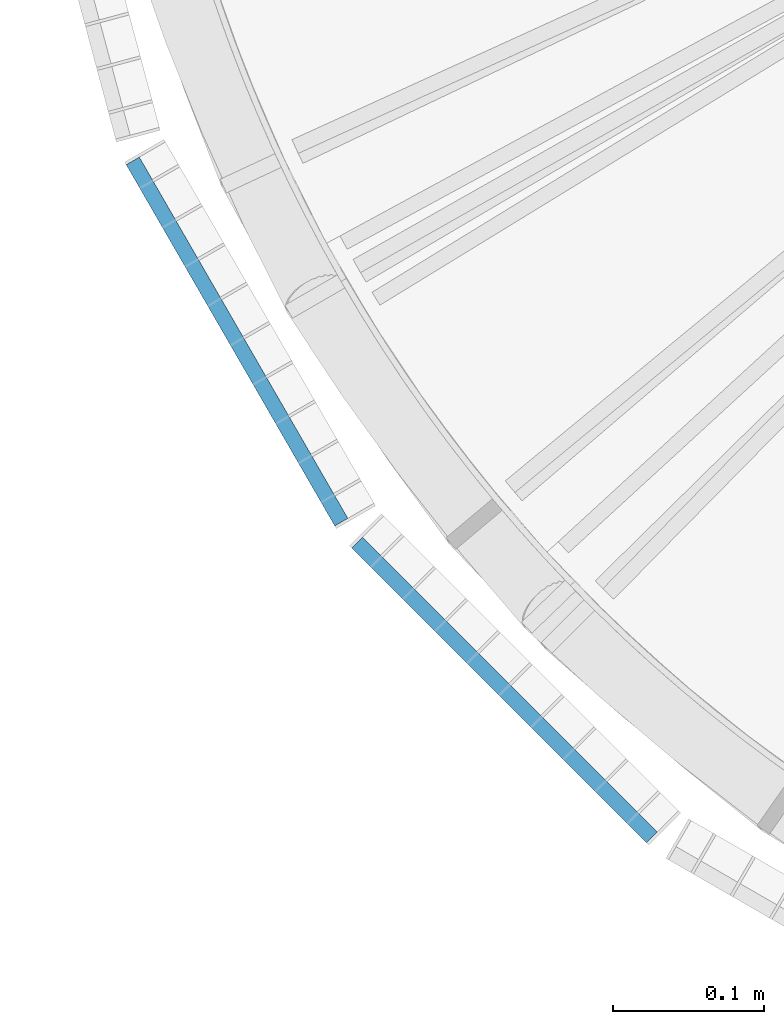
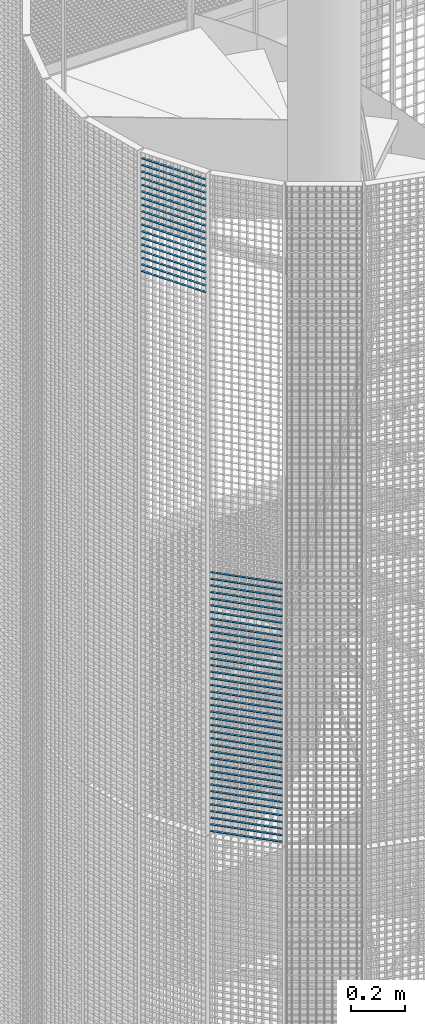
# One storey, part 105 of 1183: 58 beams, 2 elements without a shape of their own.
"""IFC2X3 building model written with IfcOpenShell, lengths in millimetres."""

from ifc_helpers import new_model, si_unit, frame, origin_with_axes, origin_2d_with_axis, place, context, subcontext, project, spatial, rectangle, extrude, material, type_object, element, aggregate, save


model = new_model("IFC2X3")

# Units and contexts
model_context = context("Model", 3, precision=1e-05, world=origin_with_axes())
body_context = subcontext(model_context, "Body", "Model", "MODEL_VIEW")
ifc_project = project(units=[si_unit("LENGTHUNIT", "METRE", prefix="MILLI"), si_unit("AREAUNIT", "SQUARE_METRE"), si_unit("VOLUMEUNIT", "CUBIC_METRE"), si_unit("MASSUNIT", "GRAM", prefix="KILO"), si_unit("TIMEUNIT", "SECOND"), si_unit("PLANEANGLEUNIT", "RADIAN"), si_unit("SOLIDANGLEUNIT", "STERADIAN"), si_unit("THERMODYNAMICTEMPERATUREUNIT", "DEGREE_CELSIUS"), si_unit("LUMINOUSINTENSITYUNIT", "LUMEN")], contexts=[model_context])

# Site, building, storey
site_placement = place(None, origin_with_axes())
site = spatial("IfcSite", under=ifc_project, at=site_placement, Name="Undefined", CompositionType="ELEMENT")
building_placement = place(site_placement, origin_with_axes())
building = spatial("IfcBuilding", under=site, at=building_placement, Name="Undefined", CompositionType="ELEMENT")
storey_placement = place(building_placement, origin_with_axes())
storey = spatial("IfcBuildingStorey", under=building, at=storey_placement, Name="Undefined", CompositionType="ELEMENT", Elevation=0.0)

# Assembly, beams
assembly_1_placement = place(storey_placement, origin_with_axes())
assembly_1 = element("IfcElementAssembly", 1, at=assembly_1_placement, inside=storey, Name="BORDURE", AssemblyPlace="NOTDEFINED", PredefinedType="NOTDEFINED")
ifc_material = material(Name="STEEL/S235JR")
beam_type = type_object("IfcBeamType", Name="PL2*10", PredefinedType="NOTDEFINED")
beam_1_placement = place(assembly_1_placement, frame((-884.927168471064, -689.771348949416, 16200.0), z_axis=(-0.70710678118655, -0.707106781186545, 0.0), x_axis=(0.707106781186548, -0.707106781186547, 0.0)))
beam_1 = element("IfcBeam", 2, at=beam_1_placement, type_object=beam_type, material=ifc_material, Name="ENTRETOISE", context=body_context, shape_type="SweptSolid", body=[
    extrude(rectangle(XDim=2.0, YDim=10.0, at=origin_2d_with_axis()), frame((275.999999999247, 9.09494701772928e-13, 1.53210777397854e-14), z_axis=(-1.0, 0.0, 0.0), x_axis=(0.0, -1.0, 0.0)), (0.0, 0.0, 1.0), 276.0),
])
beam_2_placement = place(assembly_1_placement, frame((-884.927168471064, -689.771348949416, 16170.0), z_axis=(-0.70710678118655, -0.707106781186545, 0.0), x_axis=(0.707106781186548, -0.707106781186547, 0.0)))
beam_2 = element("IfcBeam", 3, at=beam_2_placement, type_object=beam_type, material=ifc_material, Name="ENTRETOISE", context=body_context, shape_type="SweptSolid", body=[
    extrude(rectangle(XDim=2.0, YDim=10.0, at=origin_2d_with_axis()), frame((275.999999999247, 9.09494701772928e-13, 1.53210777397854e-14), z_axis=(-1.0, 0.0, 0.0), x_axis=(0.0, -1.0, 0.0)), (0.0, 0.0, 1.0), 276.0),
])
beam_3_placement = place(assembly_1_placement, frame((-884.927168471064, -689.771348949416, 16140.0), z_axis=(-0.70710678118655, -0.707106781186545, 0.0), x_axis=(0.707106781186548, -0.707106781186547, 0.0)))
beam_3 = element("IfcBeam", 4, at=beam_3_placement, type_object=beam_type, material=ifc_material, Name="ENTRETOISE", context=body_context, shape_type="SweptSolid", body=[
    extrude(rectangle(XDim=2.0, YDim=10.0, at=origin_2d_with_axis()), frame((275.999999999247, 9.09494701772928e-13, 1.53210777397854e-14), z_axis=(-1.0, 0.0, 0.0), x_axis=(0.0, -1.0, 0.0)), (0.0, 0.0, 1.0), 276.0),
])
beam_4_placement = place(assembly_1_placement, frame((-884.927168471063, -689.771348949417, 15720.0), z_axis=(-0.70710678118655, -0.707106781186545, 0.0), x_axis=(0.707106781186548, -0.707106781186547, 0.0)))
beam_4 = element("IfcBeam", 5, at=beam_4_placement, type_object=beam_type, material=ifc_material, Name="ENTRETOISE", context=body_context, shape_type="SweptSolid", body=[
    extrude(rectangle(XDim=2.0, YDim=10.0, at=origin_2d_with_axis()), frame((275.999999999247, 9.09494701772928e-13, 1.53210777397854e-14), z_axis=(-1.0, 0.0, 0.0), x_axis=(0.0, -1.0, 0.0)), (0.0, 0.0, 1.0), 276.0),
])
beam_5_placement = place(assembly_1_placement, frame((-884.927168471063, -689.771348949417, 15690.0), z_axis=(-0.70710678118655, -0.707106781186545, 0.0), x_axis=(0.707106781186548, -0.707106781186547, 0.0)))
beam_5 = element("IfcBeam", 6, at=beam_5_placement, type_object=beam_type, material=ifc_material, Name="ENTRETOISE", context=body_context, shape_type="SweptSolid", body=[
    extrude(rectangle(XDim=2.0, YDim=10.0, at=origin_2d_with_axis()), frame((275.999999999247, 9.09494701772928e-13, 1.53210777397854e-14), z_axis=(-1.0, 0.0, 0.0), x_axis=(0.0, -1.0, 0.0)), (0.0, 0.0, 1.0), 276.0),
])
beam_6_placement = place(assembly_1_placement, frame((-884.927168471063, -689.771348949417, 15750.0), z_axis=(-0.70710678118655, -0.707106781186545, 0.0), x_axis=(0.707106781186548, -0.707106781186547, 0.0)))
beam_6 = element("IfcBeam", 7, at=beam_6_placement, type_object=beam_type, material=ifc_material, Name="ENTRETOISE", context=body_context, shape_type="SweptSolid", body=[
    extrude(rectangle(XDim=2.0, YDim=10.0, at=origin_2d_with_axis()), frame((275.999999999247, 9.09494701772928e-13, 1.53210777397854e-14), z_axis=(-1.0, 0.0, 0.0), x_axis=(0.0, -1.0, 0.0)), (0.0, 0.0, 1.0), 276.0),
])
beam_7_placement = place(assembly_1_placement, frame((-884.927168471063, -689.771348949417, 15660.0), z_axis=(-0.70710678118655, -0.707106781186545, 0.0), x_axis=(0.707106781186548, -0.707106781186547, 0.0)))
beam_7 = element("IfcBeam", 8, at=beam_7_placement, type_object=beam_type, material=ifc_material, Name="ENTRETOISE", context=body_context, shape_type="SweptSolid", body=[
    extrude(rectangle(XDim=2.0, YDim=10.0, at=origin_2d_with_axis()), frame((275.999999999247, 9.09494701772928e-13, 1.53210777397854e-14), z_axis=(-1.0, 0.0, 0.0), x_axis=(0.0, -1.0, 0.0)), (0.0, 0.0, 1.0), 276.0),
])
beam_8_placement = place(assembly_1_placement, frame((-884.927168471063, -689.771348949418, 15630.0), z_axis=(-0.70710678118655, -0.707106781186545, 0.0), x_axis=(0.707106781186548, -0.707106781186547, 0.0)))
beam_8 = element("IfcBeam", 9, at=beam_8_placement, type_object=beam_type, material=ifc_material, Name="ENTRETOISE", context=body_context, shape_type="SweptSolid", body=[
    extrude(rectangle(XDim=2.0, YDim=10.0, at=origin_2d_with_axis()), frame((275.999999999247, 9.09494701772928e-13, 1.53210777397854e-14), z_axis=(-1.0, 0.0, 0.0), x_axis=(0.0, -1.0, 0.0)), (0.0, 0.0, 1.0), 276.0),
])
beam_9_placement = place(assembly_1_placement, frame((-884.927168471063, -689.771348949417, 15780.0), z_axis=(-0.70710678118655, -0.707106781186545, 0.0), x_axis=(0.707106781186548, -0.707106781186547, 0.0)))
beam_9 = element("IfcBeam", 10, at=beam_9_placement, type_object=beam_type, material=ifc_material, Name="ENTRETOISE", context=body_context, shape_type="SweptSolid", body=[
    extrude(rectangle(XDim=2.0, YDim=10.0, at=origin_2d_with_axis()), frame((275.999999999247, 9.09494701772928e-13, 1.53210777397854e-14), z_axis=(-1.0, 0.0, 0.0), x_axis=(0.0, -1.0, 0.0)), (0.0, 0.0, 1.0), 276.0),
])
beam_10_placement = place(assembly_1_placement, frame((-884.927168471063, -689.771348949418, 15600.0), z_axis=(-0.70710678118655, -0.707106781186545, 0.0), x_axis=(0.707106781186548, -0.707106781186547, 0.0)))
beam_10 = element("IfcBeam", 11, at=beam_10_placement, type_object=beam_type, material=ifc_material, Name="ENTRETOISE", context=body_context, shape_type="SweptSolid", body=[
    extrude(rectangle(XDim=2.0, YDim=10.0, at=origin_2d_with_axis()), frame((275.999999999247, 9.09494701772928e-13, 1.53210777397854e-14), z_axis=(-1.0, 0.0, 0.0), x_axis=(0.0, -1.0, 0.0)), (0.0, 0.0, 1.0), 276.0),
])
beam_11_placement = place(assembly_1_placement, frame((-884.927168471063, -689.771348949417, 15810.0), z_axis=(-0.70710678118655, -0.707106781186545, 0.0), x_axis=(0.707106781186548, -0.707106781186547, 0.0)))
beam_11 = element("IfcBeam", 12, at=beam_11_placement, type_object=beam_type, material=ifc_material, Name="ENTRETOISE", context=body_context, shape_type="SweptSolid", body=[
    extrude(rectangle(XDim=2.0, YDim=10.0, at=origin_2d_with_axis()), frame((275.999999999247, 9.09494701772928e-13, 1.53210777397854e-14), z_axis=(-1.0, 0.0, 0.0), x_axis=(0.0, -1.0, 0.0)), (0.0, 0.0, 1.0), 276.0),
])
beam_12_placement = place(assembly_1_placement, frame((-884.927168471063, -689.771348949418, 15570.0), z_axis=(-0.70710678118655, -0.707106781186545, 0.0), x_axis=(0.707106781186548, -0.707106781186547, 0.0)))
beam_12 = element("IfcBeam", 13, at=beam_12_placement, type_object=beam_type, material=ifc_material, Name="ENTRETOISE", context=body_context, shape_type="SweptSolid", body=[
    extrude(rectangle(XDim=2.0, YDim=10.0, at=origin_2d_with_axis()), frame((275.999999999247, 9.09494701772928e-13, 1.53210777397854e-14), z_axis=(-1.0, 0.0, 0.0), x_axis=(0.0, -1.0, 0.0)), (0.0, 0.0, 1.0), 276.0),
])
beam_13_placement = place(assembly_1_placement, frame((-884.927168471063, -689.771348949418, 15540.0), z_axis=(-0.70710678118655, -0.707106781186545, 0.0), x_axis=(0.707106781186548, -0.707106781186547, 0.0)))
beam_13 = element("IfcBeam", 14, at=beam_13_placement, type_object=beam_type, material=ifc_material, Name="ENTRETOISE", context=body_context, shape_type="SweptSolid", body=[
    extrude(rectangle(XDim=2.0, YDim=10.0, at=origin_2d_with_axis()), frame((275.999999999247, 9.09494701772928e-13, 1.53210777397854e-14), z_axis=(-1.0, 0.0, 0.0), x_axis=(0.0, -1.0, 0.0)), (0.0, 0.0, 1.0), 276.0),
])
beam_14_placement = place(assembly_1_placement, frame((-884.927168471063, -689.771348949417, 15840.0), z_axis=(-0.70710678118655, -0.707106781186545, 0.0), x_axis=(0.707106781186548, -0.707106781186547, 0.0)))
beam_14 = element("IfcBeam", 15, at=beam_14_placement, type_object=beam_type, material=ifc_material, Name="ENTRETOISE", context=body_context, shape_type="SweptSolid", body=[
    extrude(rectangle(XDim=2.0, YDim=10.0, at=origin_2d_with_axis()), frame((275.999999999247, 9.09494701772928e-13, 1.53210777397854e-14), z_axis=(-1.0, 0.0, 0.0), x_axis=(0.0, -1.0, 0.0)), (0.0, 0.0, 1.0), 276.0),
])
beam_15_placement = place(assembly_1_placement, frame((-884.927168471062, -689.771348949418, 15510.0), z_axis=(-0.70710678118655, -0.707106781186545, 0.0), x_axis=(0.707106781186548, -0.707106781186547, 0.0)))
beam_15 = element("IfcBeam", 16, at=beam_15_placement, type_object=beam_type, material=ifc_material, Name="ENTRETOISE", context=body_context, shape_type="SweptSolid", body=[
    extrude(rectangle(XDim=2.0, YDim=10.0, at=origin_2d_with_axis()), frame((275.999999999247, 9.09494701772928e-13, 1.53210777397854e-14), z_axis=(-1.0, 0.0, 0.0), x_axis=(0.0, -1.0, 0.0)), (0.0, 0.0, 1.0), 276.0),
])
beam_16_placement = place(assembly_1_placement, frame((-884.927168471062, -689.771348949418, 15480.0), z_axis=(-0.70710678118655, -0.707106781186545, 0.0), x_axis=(0.707106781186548, -0.707106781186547, 0.0)))
beam_16 = element("IfcBeam", 17, at=beam_16_placement, type_object=beam_type, material=ifc_material, Name="ENTRETOISE", context=body_context, shape_type="SweptSolid", body=[
    extrude(rectangle(XDim=2.0, YDim=10.0, at=origin_2d_with_axis()), frame((275.999999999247, 9.09494701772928e-13, 1.53210777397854e-14), z_axis=(-1.0, 0.0, 0.0), x_axis=(0.0, -1.0, 0.0)), (0.0, 0.0, 1.0), 276.0),
])
beam_17_placement = place(assembly_1_placement, frame((-884.927168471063, -689.771348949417, 15870.0), z_axis=(-0.70710678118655, -0.707106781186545, 0.0), x_axis=(0.707106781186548, -0.707106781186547, 0.0)))
beam_17 = element("IfcBeam", 18, at=beam_17_placement, type_object=beam_type, material=ifc_material, Name="ENTRETOISE", context=body_context, shape_type="SweptSolid", body=[
    extrude(rectangle(XDim=2.0, YDim=10.0, at=origin_2d_with_axis()), frame((275.999999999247, 9.09494701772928e-13, 1.53210777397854e-14), z_axis=(-1.0, 0.0, 0.0), x_axis=(0.0, -1.0, 0.0)), (0.0, 0.0, 1.0), 276.0),
])
beam_18_placement = place(assembly_1_placement, frame((-884.927168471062, -689.771348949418, 15450.0), z_axis=(-0.70710678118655, -0.707106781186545, 0.0), x_axis=(0.707106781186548, -0.707106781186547, 0.0)))
beam_18 = element("IfcBeam", 19, at=beam_18_placement, type_object=beam_type, material=ifc_material, Name="ENTRETOISE", context=body_context, shape_type="SweptSolid", body=[
    extrude(rectangle(XDim=2.0, YDim=10.0, at=origin_2d_with_axis()), frame((275.999999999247, 9.09494701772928e-13, 1.53210777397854e-14), z_axis=(-1.0, 0.0, 0.0), x_axis=(0.0, -1.0, 0.0)), (0.0, 0.0, 1.0), 276.0),
])
beam_19_placement = place(assembly_1_placement, frame((-884.927168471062, -689.771348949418, 15420.0), z_axis=(-0.70710678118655, -0.707106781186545, 0.0), x_axis=(0.707106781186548, -0.707106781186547, 0.0)))
beam_19 = element("IfcBeam", 20, at=beam_19_placement, type_object=beam_type, material=ifc_material, Name="ENTRETOISE", context=body_context, shape_type="SweptSolid", body=[
    extrude(rectangle(XDim=2.0, YDim=10.0, at=origin_2d_with_axis()), frame((275.999999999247, 9.09494701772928e-13, 1.53210777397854e-14), z_axis=(-1.0, 0.0, 0.0), x_axis=(0.0, -1.0, 0.0)), (0.0, 0.0, 1.0), 276.0),
])
beam_20_placement = place(assembly_1_placement, frame((-884.927168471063, -689.771348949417, 15900.0), z_axis=(-0.70710678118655, -0.707106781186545, 0.0), x_axis=(0.707106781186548, -0.707106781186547, 0.0)))
beam_20 = element("IfcBeam", 21, at=beam_20_placement, type_object=beam_type, material=ifc_material, Name="ENTRETOISE", context=body_context, shape_type="SweptSolid", body=[
    extrude(rectangle(XDim=2.0, YDim=10.0, at=origin_2d_with_axis()), frame((275.999999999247, 9.09494701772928e-13, 1.53210777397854e-14), z_axis=(-1.0, 0.0, 0.0), x_axis=(0.0, -1.0, 0.0)), (0.0, 0.0, 1.0), 276.0),
])
beam_21_placement = place(assembly_1_placement, frame((-884.927168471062, -689.771348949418, 15390.0), z_axis=(-0.70710678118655, -0.707106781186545, 0.0), x_axis=(0.707106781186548, -0.707106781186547, 0.0)))
beam_21 = element("IfcBeam", 22, at=beam_21_placement, type_object=beam_type, material=ifc_material, Name="ENTRETOISE", context=body_context, shape_type="SweptSolid", body=[
    extrude(rectangle(XDim=2.0, YDim=10.0, at=origin_2d_with_axis()), frame((275.999999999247, 9.09494701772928e-13, 1.53210777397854e-14), z_axis=(-1.0, 0.0, 0.0), x_axis=(0.0, -1.0, 0.0)), (0.0, 0.0, 1.0), 276.0),
])
beam_22_placement = place(assembly_1_placement, frame((-884.927168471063, -689.771348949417, 15930.0), z_axis=(-0.70710678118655, -0.707106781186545, 0.0), x_axis=(0.707106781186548, -0.707106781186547, 0.0)))
beam_22 = element("IfcBeam", 23, at=beam_22_placement, type_object=beam_type, material=ifc_material, Name="ENTRETOISE", context=body_context, shape_type="SweptSolid", body=[
    extrude(rectangle(XDim=2.0, YDim=10.0, at=origin_2d_with_axis()), frame((275.999999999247, 9.09494701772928e-13, 1.53210777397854e-14), z_axis=(-1.0, 0.0, 0.0), x_axis=(0.0, -1.0, 0.0)), (0.0, 0.0, 1.0), 276.0),
])
beam_23_placement = place(assembly_1_placement, frame((-884.927168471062, -689.771348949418, 15360.0), z_axis=(-0.70710678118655, -0.707106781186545, 0.0), x_axis=(0.707106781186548, -0.707106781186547, 0.0)))
beam_23 = element("IfcBeam", 24, at=beam_23_placement, type_object=beam_type, material=ifc_material, Name="ENTRETOISE", context=body_context, shape_type="SweptSolid", body=[
    extrude(rectangle(XDim=2.0, YDim=10.0, at=origin_2d_with_axis()), frame((275.999999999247, 9.09494701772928e-13, 1.53210777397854e-14), z_axis=(-1.0, 0.0, 0.0), x_axis=(0.0, -1.0, 0.0)), (0.0, 0.0, 1.0), 276.0),
])
beam_24_placement = place(assembly_1_placement, frame((-884.927168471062, -689.771348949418, 15330.0), z_axis=(-0.70710678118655, -0.707106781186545, 0.0), x_axis=(0.707106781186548, -0.707106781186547, 0.0)))
beam_24 = element("IfcBeam", 25, at=beam_24_placement, type_object=beam_type, material=ifc_material, Name="ENTRETOISE", context=body_context, shape_type="SweptSolid", body=[
    extrude(rectangle(XDim=2.0, YDim=10.0, at=origin_2d_with_axis()), frame((275.999999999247, 9.09494701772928e-13, 1.53210777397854e-14), z_axis=(-1.0, 0.0, 0.0), x_axis=(0.0, -1.0, 0.0)), (0.0, 0.0, 1.0), 276.0),
])
beam_25_placement = place(assembly_1_placement, frame((-884.927168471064, -689.771348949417, 15960.0), z_axis=(-0.70710678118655, -0.707106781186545, 0.0), x_axis=(0.707106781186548, -0.707106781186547, 0.0)))
beam_25 = element("IfcBeam", 26, at=beam_25_placement, type_object=beam_type, material=ifc_material, Name="ENTRETOISE", context=body_context, shape_type="SweptSolid", body=[
    extrude(rectangle(XDim=2.0, YDim=10.0, at=origin_2d_with_axis()), frame((275.999999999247, 9.09494701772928e-13, 1.53210777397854e-14), z_axis=(-1.0, 0.0, 0.0), x_axis=(0.0, -1.0, 0.0)), (0.0, 0.0, 1.0), 276.0),
])
beam_26_placement = place(assembly_1_placement, frame((-884.927168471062, -689.771348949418, 15300.0), z_axis=(-0.70710678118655, -0.707106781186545, 0.0), x_axis=(0.707106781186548, -0.707106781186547, 0.0)))
beam_26 = element("IfcBeam", 27, at=beam_26_placement, type_object=beam_type, material=ifc_material, Name="ENTRETOISE", context=body_context, shape_type="SweptSolid", body=[
    extrude(rectangle(XDim=2.0, YDim=10.0, at=origin_2d_with_axis()), frame((275.999999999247, 9.09494701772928e-13, 1.53210777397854e-14), z_axis=(-1.0, 0.0, 0.0), x_axis=(0.0, -1.0, 0.0)), (0.0, 0.0, 1.0), 276.0),
])
beam_27_placement = place(assembly_1_placement, frame((-884.927168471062, -689.771348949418, 15270.0), z_axis=(-0.70710678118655, -0.707106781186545, 0.0), x_axis=(0.707106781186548, -0.707106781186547, 0.0)))
beam_27 = element("IfcBeam", 28, at=beam_27_placement, type_object=beam_type, material=ifc_material, Name="ENTRETOISE", context=body_context, shape_type="SweptSolid", body=[
    extrude(rectangle(XDim=2.0, YDim=10.0, at=origin_2d_with_axis()), frame((275.999999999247, 9.09494701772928e-13, 1.53210777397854e-14), z_axis=(-1.0, 0.0, 0.0), x_axis=(0.0, -1.0, 0.0)), (0.0, 0.0, 1.0), 276.0),
])
beam_28_placement = place(assembly_1_placement, frame((-884.927168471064, -689.771348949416, 15990.0), z_axis=(-0.70710678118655, -0.707106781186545, 0.0), x_axis=(0.707106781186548, -0.707106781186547, 0.0)))
beam_28 = element("IfcBeam", 29, at=beam_28_placement, type_object=beam_type, material=ifc_material, Name="ENTRETOISE", context=body_context, shape_type="SweptSolid", body=[
    extrude(rectangle(XDim=2.0, YDim=10.0, at=origin_2d_with_axis()), frame((275.999999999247, 9.09494701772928e-13, 1.53210777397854e-14), z_axis=(-1.0, 0.0, 0.0), x_axis=(0.0, -1.0, 0.0)), (0.0, 0.0, 1.0), 276.0),
])
beam_29_placement = place(assembly_1_placement, frame((-884.927168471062, -689.771348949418, 15240.0), z_axis=(-0.70710678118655, -0.707106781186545, 0.0), x_axis=(0.707106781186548, -0.707106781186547, 0.0)))
beam_29 = element("IfcBeam", 30, at=beam_29_placement, type_object=beam_type, material=ifc_material, Name="ENTRETOISE", context=body_context, shape_type="SweptSolid", body=[
    extrude(rectangle(XDim=2.0, YDim=10.0, at=origin_2d_with_axis()), frame((275.999999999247, 9.09494701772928e-13, 1.53210777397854e-14), z_axis=(-1.0, 0.0, 0.0), x_axis=(0.0, -1.0, 0.0)), (0.0, 0.0, 1.0), 276.0),
])
beam_30_placement = place(assembly_1_placement, frame((-884.927168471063, -689.771348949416, 16020.0), z_axis=(-0.70710678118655, -0.707106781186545, 0.0), x_axis=(0.707106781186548, -0.707106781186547, 0.0)))
beam_30 = element("IfcBeam", 31, at=beam_30_placement, type_object=beam_type, material=ifc_material, Name="ENTRETOISE", context=body_context, shape_type="SweptSolid", body=[
    extrude(rectangle(XDim=2.0, YDim=10.0, at=origin_2d_with_axis()), frame((275.999999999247, 9.09494701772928e-13, 1.53210777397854e-14), z_axis=(-1.0, 0.0, 0.0), x_axis=(0.0, -1.0, 0.0)), (0.0, 0.0, 1.0), 276.0),
])
beam_31_placement = place(assembly_1_placement, frame((-884.927168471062, -689.771348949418, 15210.0), z_axis=(-0.70710678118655, -0.707106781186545, 0.0), x_axis=(0.707106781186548, -0.707106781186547, 0.0)))
beam_31 = element("IfcBeam", 32, at=beam_31_placement, type_object=beam_type, material=ifc_material, Name="ENTRETOISE", context=body_context, shape_type="SweptSolid", body=[
    extrude(rectangle(XDim=2.0, YDim=10.0, at=origin_2d_with_axis()), frame((275.999999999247, 9.09494701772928e-13, 1.53210777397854e-14), z_axis=(-1.0, 0.0, 0.0), x_axis=(0.0, -1.0, 0.0)), (0.0, 0.0, 1.0), 276.0),
])
beam_32_placement = place(assembly_1_placement, frame((-884.927168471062, -689.771348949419, 15180.0), z_axis=(-0.70710678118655, -0.707106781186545, 0.0), x_axis=(0.707106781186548, -0.707106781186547, 0.0)))
beam_32 = element("IfcBeam", 33, at=beam_32_placement, type_object=beam_type, material=ifc_material, Name="ENTRETOISE", context=body_context, shape_type="SweptSolid", body=[
    extrude(rectangle(XDim=2.0, YDim=10.0, at=origin_2d_with_axis()), frame((275.999999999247, 9.09494701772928e-13, 1.53210777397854e-14), z_axis=(-1.0, 0.0, 0.0), x_axis=(0.0, -1.0, 0.0)), (0.0, 0.0, 1.0), 276.0),
])
beam_33_placement = place(assembly_1_placement, frame((-884.927168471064, -689.771348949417, 16050.0), z_axis=(-0.70710678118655, -0.707106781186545, 0.0), x_axis=(0.707106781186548, -0.707106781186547, 0.0)))
beam_33 = element("IfcBeam", 34, at=beam_33_placement, type_object=beam_type, material=ifc_material, Name="ENTRETOISE", context=body_context, shape_type="SweptSolid", body=[
    extrude(rectangle(XDim=2.0, YDim=10.0, at=origin_2d_with_axis()), frame((275.999999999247, 9.09494701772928e-13, 1.53210777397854e-14), z_axis=(-1.0, 0.0, 0.0), x_axis=(0.0, -1.0, 0.0)), (0.0, 0.0, 1.0), 276.0),
])
beam_34_placement = place(assembly_1_placement, frame((-884.927168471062, -689.771348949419, 15150.0), z_axis=(-0.70710678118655, -0.707106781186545, 0.0), x_axis=(0.707106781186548, -0.707106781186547, 0.0)))
beam_34 = element("IfcBeam", 35, at=beam_34_placement, type_object=beam_type, material=ifc_material, Name="ENTRETOISE", context=body_context, shape_type="SweptSolid", body=[
    extrude(rectangle(XDim=2.0, YDim=10.0, at=origin_2d_with_axis()), frame((275.999999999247, 9.09494701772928e-13, 1.53210777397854e-14), z_axis=(-1.0, 0.0, 0.0), x_axis=(0.0, -1.0, 0.0)), (0.0, 0.0, 1.0), 276.0),
])
beam_35_placement = place(assembly_1_placement, frame((-884.927168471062, -689.771348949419, 15120.0), z_axis=(-0.70710678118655, -0.707106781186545, 0.0), x_axis=(0.707106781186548, -0.707106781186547, 0.0)))
beam_35 = element("IfcBeam", 36, at=beam_35_placement, type_object=beam_type, material=ifc_material, Name="ENTRETOISE", context=body_context, shape_type="SweptSolid", body=[
    extrude(rectangle(XDim=2.0, YDim=10.0, at=origin_2d_with_axis()), frame((275.999999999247, 9.09494701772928e-13, 1.53210777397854e-14), z_axis=(-1.0, 0.0, 0.0), x_axis=(0.0, -1.0, 0.0)), (0.0, 0.0, 1.0), 276.0),
])
beam_36_placement = place(assembly_1_placement, frame((-884.927168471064, -689.771348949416, 16080.0), z_axis=(-0.70710678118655, -0.707106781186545, 0.0), x_axis=(0.707106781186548, -0.707106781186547, 0.0)))
beam_36 = element("IfcBeam", 37, at=beam_36_placement, type_object=beam_type, material=ifc_material, Name="ENTRETOISE", context=body_context, shape_type="SweptSolid", body=[
    extrude(rectangle(XDim=2.0, YDim=10.0, at=origin_2d_with_axis()), frame((275.999999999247, 9.09494701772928e-13, 1.53210777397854e-14), z_axis=(-1.0, 0.0, 0.0), x_axis=(0.0, -1.0, 0.0)), (0.0, 0.0, 1.0), 276.0),
])
beam_37_placement = place(assembly_1_placement, frame((-884.927168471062, -689.771348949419, 15090.0), z_axis=(-0.70710678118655, -0.707106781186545, 0.0), x_axis=(0.707106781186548, -0.707106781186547, 0.0)))
beam_37 = element("IfcBeam", 38, at=beam_37_placement, type_object=beam_type, material=ifc_material, Name="ENTRETOISE", context=body_context, shape_type="SweptSolid", body=[
    extrude(rectangle(XDim=2.0, YDim=10.0, at=origin_2d_with_axis()), frame((275.999999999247, 9.09494701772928e-13, 1.53210777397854e-14), z_axis=(-1.0, 0.0, 0.0), x_axis=(0.0, -1.0, 0.0)), (0.0, 0.0, 1.0), 276.0),
])
beam_38_placement = place(assembly_1_placement, frame((-884.927168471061, -689.771348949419, 15060.0), z_axis=(-0.70710678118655, -0.707106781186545, 0.0), x_axis=(0.707106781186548, -0.707106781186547, 0.0)))
beam_38 = element("IfcBeam", 39, at=beam_38_placement, type_object=beam_type, material=ifc_material, Name="ENTRETOISE", context=body_context, shape_type="SweptSolid", body=[
    extrude(rectangle(XDim=2.0, YDim=10.0, at=origin_2d_with_axis()), frame((275.999999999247, 9.09494701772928e-13, 1.53210777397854e-14), z_axis=(-1.0, 0.0, 0.0), x_axis=(0.0, -1.0, 0.0)), (0.0, 0.0, 1.0), 276.0),
])
beam_39_placement = place(assembly_1_placement, frame((-884.927168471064, -689.771348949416, 16110.0), z_axis=(-0.70710678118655, -0.707106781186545, 0.0), x_axis=(0.707106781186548, -0.707106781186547, 0.0)))
beam_39 = element("IfcBeam", 40, at=beam_39_placement, type_object=beam_type, material=ifc_material, Name="ENTRETOISE", context=body_context, shape_type="SweptSolid", body=[
    extrude(rectangle(XDim=2.0, YDim=10.0, at=origin_2d_with_axis()), frame((275.999999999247, 9.09494701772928e-13, 1.53210777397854e-14), z_axis=(-1.0, 0.0, 0.0), x_axis=(0.0, -1.0, 0.0)), (0.0, 0.0, 1.0), 276.0),
])
beam_40_placement = place(assembly_1_placement, frame((-884.92716847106, -689.771348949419, 15030.0), z_axis=(-0.70710678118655, -0.707106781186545, 0.0), x_axis=(0.707106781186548, -0.707106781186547, 0.0)))
beam_40 = element("IfcBeam", 41, at=beam_40_placement, type_object=beam_type, material=ifc_material, Name="ENTRETOISE", context=body_context, shape_type="SweptSolid", body=[
    extrude(rectangle(XDim=2.0, YDim=10.0, at=origin_2d_with_axis()), frame((275.999999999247, 9.09494701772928e-13, 1.53210777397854e-14), z_axis=(-1.0, 0.0, 0.0), x_axis=(0.0, -1.0, 0.0)), (0.0, 0.0, 1.0), 276.0),
])
aggregate(assembly_1, [beam_1, beam_2, beam_3, beam_4, beam_5, beam_6, beam_7, beam_8, beam_9, beam_10, beam_11, beam_12, beam_13, beam_14, beam_15, beam_16, beam_17, beam_18, beam_19, beam_20, beam_21, beam_22, beam_23, beam_24, beam_25, beam_26, beam_27, beam_28, beam_29, beam_30, beam_31, beam_32, beam_33, beam_34, beam_35, beam_36, beam_37, beam_38, beam_39, beam_40])

assembly_2_placement = place(storey_placement, origin_with_axes())
assembly_2 = element("IfcElementAssembly", 42, at=assembly_2_placement, inside=storey, Name="BORDURE", AssemblyPlace="NOTDEFINED", PredefinedType="NOTDEFINED")
beam_41_placement = place(assembly_2_placement, frame((-1033.29996828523, -437.231955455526, 17970.0), z_axis=(-0.866025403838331, -0.499999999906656, 0.0), x_axis=(0.499999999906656, -0.866025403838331, 0.0)))
beam_41 = element("IfcBeam", 43, at=beam_41_placement, type_object=beam_type, material=ifc_material, Name="ENTRETOISE", context=body_context, shape_type="SweptSolid", body=[
    extrude(rectangle(XDim=2.0, YDim=10.0, at=origin_2d_with_axis()), frame((275.999999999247, 9.09494701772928e-13, 1.53210777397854e-14), z_axis=(-1.0, 0.0, 0.0), x_axis=(0.0, -1.0, 0.0)), (0.0, 0.0, 1.0), 276.0),
])
beam_42_placement = place(assembly_2_placement, frame((-1033.29996828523, -437.231955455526, 17940.0), z_axis=(-0.866025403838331, -0.499999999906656, 0.0), x_axis=(0.499999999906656, -0.866025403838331, 0.0)))
beam_42 = element("IfcBeam", 44, at=beam_42_placement, type_object=beam_type, material=ifc_material, Name="ENTRETOISE", context=body_context, shape_type="SweptSolid", body=[
    extrude(rectangle(XDim=2.0, YDim=10.0, at=origin_2d_with_axis()), frame((275.999999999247, 9.09494701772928e-13, 1.53210777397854e-14), z_axis=(-1.0, 0.0, 0.0), x_axis=(0.0, -1.0, 0.0)), (0.0, 0.0, 1.0), 276.0),
])
beam_43_placement = place(assembly_2_placement, frame((-1033.29996828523, -437.231955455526, 17910.0), z_axis=(-0.866025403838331, -0.499999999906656, 0.0), x_axis=(0.499999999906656, -0.866025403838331, 0.0)))
beam_43 = element("IfcBeam", 45, at=beam_43_placement, type_object=beam_type, material=ifc_material, Name="ENTRETOISE", context=body_context, shape_type="SweptSolid", body=[
    extrude(rectangle(XDim=2.0, YDim=10.0, at=origin_2d_with_axis()), frame((275.999999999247, 9.09494701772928e-13, 1.53210777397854e-14), z_axis=(-1.0, 0.0, 0.0), x_axis=(0.0, -1.0, 0.0)), (0.0, 0.0, 1.0), 276.0),
])
beam_44_placement = place(assembly_2_placement, frame((-1033.29996828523, -437.231955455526, 17880.0), z_axis=(-0.866025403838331, -0.499999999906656, 0.0), x_axis=(0.499999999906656, -0.866025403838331, 0.0)))
beam_44 = element("IfcBeam", 46, at=beam_44_placement, type_object=beam_type, material=ifc_material, Name="ENTRETOISE", context=body_context, shape_type="SweptSolid", body=[
    extrude(rectangle(XDim=2.0, YDim=10.0, at=origin_2d_with_axis()), frame((275.999999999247, 9.09494701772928e-13, 1.53210777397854e-14), z_axis=(-1.0, 0.0, 0.0), x_axis=(0.0, -1.0, 0.0)), (0.0, 0.0, 1.0), 276.0),
])
beam_45_placement = place(assembly_2_placement, frame((-1033.29996828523, -437.231955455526, 17850.0), z_axis=(-0.866025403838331, -0.499999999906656, 0.0), x_axis=(0.499999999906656, -0.866025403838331, 0.0)))
beam_45 = element("IfcBeam", 47, at=beam_45_placement, type_object=beam_type, material=ifc_material, Name="ENTRETOISE", context=body_context, shape_type="SweptSolid", body=[
    extrude(rectangle(XDim=2.0, YDim=10.0, at=origin_2d_with_axis()), frame((275.999999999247, 9.09494701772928e-13, 1.53210777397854e-14), z_axis=(-1.0, 0.0, 0.0), x_axis=(0.0, -1.0, 0.0)), (0.0, 0.0, 1.0), 276.0),
])
beam_46_placement = place(assembly_2_placement, frame((-1033.29996828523, -437.231955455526, 17820.0), z_axis=(-0.866025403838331, -0.499999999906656, 0.0), x_axis=(0.499999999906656, -0.866025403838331, 0.0)))
beam_46 = element("IfcBeam", 48, at=beam_46_placement, type_object=beam_type, material=ifc_material, Name="ENTRETOISE", context=body_context, shape_type="SweptSolid", body=[
    extrude(rectangle(XDim=2.0, YDim=10.0, at=origin_2d_with_axis()), frame((275.999999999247, 9.09494701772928e-13, 1.53210777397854e-14), z_axis=(-1.0, 0.0, 0.0), x_axis=(0.0, -1.0, 0.0)), (0.0, 0.0, 1.0), 276.0),
])
beam_47_placement = place(assembly_2_placement, frame((-1033.29996828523, -437.231955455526, 17790.0), z_axis=(-0.866025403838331, -0.499999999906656, 0.0), x_axis=(0.499999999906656, -0.866025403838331, 0.0)))
beam_47 = element("IfcBeam", 49, at=beam_47_placement, type_object=beam_type, material=ifc_material, Name="ENTRETOISE", context=body_context, shape_type="SweptSolid", body=[
    extrude(rectangle(XDim=2.0, YDim=10.0, at=origin_2d_with_axis()), frame((275.999999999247, 9.09494701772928e-13, 1.53210777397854e-14), z_axis=(-1.0, 0.0, 0.0), x_axis=(0.0, -1.0, 0.0)), (0.0, 0.0, 1.0), 276.0),
])
beam_48_placement = place(assembly_2_placement, frame((-1033.29996828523, -437.231955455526, 17760.0), z_axis=(-0.866025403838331, -0.499999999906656, 0.0), x_axis=(0.499999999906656, -0.866025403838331, 0.0)))
beam_48 = element("IfcBeam", 50, at=beam_48_placement, type_object=beam_type, material=ifc_material, Name="ENTRETOISE", context=body_context, shape_type="SweptSolid", body=[
    extrude(rectangle(XDim=2.0, YDim=10.0, at=origin_2d_with_axis()), frame((275.999999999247, 9.09494701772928e-13, 1.53210777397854e-14), z_axis=(-1.0, 0.0, 0.0), x_axis=(0.0, -1.0, 0.0)), (0.0, 0.0, 1.0), 276.0),
])
beam_49_placement = place(assembly_2_placement, frame((-1033.29996828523, -437.231955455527, 17730.0), z_axis=(-0.866025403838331, -0.499999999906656, 0.0), x_axis=(0.499999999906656, -0.866025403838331, 0.0)))
beam_49 = element("IfcBeam", 51, at=beam_49_placement, type_object=beam_type, material=ifc_material, Name="ENTRETOISE", context=body_context, shape_type="SweptSolid", body=[
    extrude(rectangle(XDim=2.0, YDim=10.0, at=origin_2d_with_axis()), frame((275.999999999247, 9.09494701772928e-13, 1.53210777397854e-14), z_axis=(-1.0, 0.0, 0.0), x_axis=(0.0, -1.0, 0.0)), (0.0, 0.0, 1.0), 276.0),
])
beam_50_placement = place(assembly_2_placement, frame((-1033.29996828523, -437.231955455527, 17700.0), z_axis=(-0.866025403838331, -0.499999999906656, 0.0), x_axis=(0.499999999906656, -0.866025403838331, 0.0)))
beam_50 = element("IfcBeam", 52, at=beam_50_placement, type_object=beam_type, material=ifc_material, Name="ENTRETOISE", context=body_context, shape_type="SweptSolid", body=[
    extrude(rectangle(XDim=2.0, YDim=10.0, at=origin_2d_with_axis()), frame((275.999999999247, 9.09494701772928e-13, 1.53210777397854e-14), z_axis=(-1.0, 0.0, 0.0), x_axis=(0.0, -1.0, 0.0)), (0.0, 0.0, 1.0), 276.0),
])
beam_51_placement = place(assembly_2_placement, frame((-1033.29996828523, -437.231955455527, 17670.0), z_axis=(-0.866025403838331, -0.499999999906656, 0.0), x_axis=(0.499999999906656, -0.866025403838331, 0.0)))
beam_51 = element("IfcBeam", 53, at=beam_51_placement, type_object=beam_type, material=ifc_material, Name="ENTRETOISE", context=body_context, shape_type="SweptSolid", body=[
    extrude(rectangle(XDim=2.0, YDim=10.0, at=origin_2d_with_axis()), frame((275.999999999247, 9.09494701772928e-13, 1.53210777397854e-14), z_axis=(-1.0, 0.0, 0.0), x_axis=(0.0, -1.0, 0.0)), (0.0, 0.0, 1.0), 276.0),
])
beam_52_placement = place(assembly_2_placement, frame((-1033.29996828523, -437.231955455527, 17640.0), z_axis=(-0.866025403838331, -0.499999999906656, 0.0), x_axis=(0.499999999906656, -0.866025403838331, 0.0)))
beam_52 = element("IfcBeam", 54, at=beam_52_placement, type_object=beam_type, material=ifc_material, Name="ENTRETOISE", context=body_context, shape_type="SweptSolid", body=[
    extrude(rectangle(XDim=2.0, YDim=10.0, at=origin_2d_with_axis()), frame((275.999999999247, 9.09494701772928e-13, 1.53210777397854e-14), z_axis=(-1.0, 0.0, 0.0), x_axis=(0.0, -1.0, 0.0)), (0.0, 0.0, 1.0), 276.0),
])
beam_53_placement = place(assembly_2_placement, frame((-1033.29996828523, -437.231955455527, 17610.0), z_axis=(-0.866025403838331, -0.499999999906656, 0.0), x_axis=(0.499999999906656, -0.866025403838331, 0.0)))
beam_53 = element("IfcBeam", 55, at=beam_53_placement, type_object=beam_type, material=ifc_material, Name="ENTRETOISE", context=body_context, shape_type="SweptSolid", body=[
    extrude(rectangle(XDim=2.0, YDim=10.0, at=origin_2d_with_axis()), frame((275.999999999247, 9.09494701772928e-13, 1.53210777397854e-14), z_axis=(-1.0, 0.0, 0.0), x_axis=(0.0, -1.0, 0.0)), (0.0, 0.0, 1.0), 276.0),
])
beam_54_placement = place(assembly_2_placement, frame((-1033.29996828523, -437.231955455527, 17580.0), z_axis=(-0.866025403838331, -0.499999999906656, 0.0), x_axis=(0.499999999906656, -0.866025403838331, 0.0)))
beam_54 = element("IfcBeam", 56, at=beam_54_placement, type_object=beam_type, material=ifc_material, Name="ENTRETOISE", context=body_context, shape_type="SweptSolid", body=[
    extrude(rectangle(XDim=2.0, YDim=10.0, at=origin_2d_with_axis()), frame((275.999999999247, 9.09494701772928e-13, 1.53210777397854e-14), z_axis=(-1.0, 0.0, 0.0), x_axis=(0.0, -1.0, 0.0)), (0.0, 0.0, 1.0), 276.0),
])
beam_55_placement = place(assembly_2_placement, frame((-1033.29996828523, -437.231955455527, 17550.0), z_axis=(-0.866025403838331, -0.499999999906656, 0.0), x_axis=(0.499999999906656, -0.866025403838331, 0.0)))
beam_55 = element("IfcBeam", 57, at=beam_55_placement, type_object=beam_type, material=ifc_material, Name="ENTRETOISE", context=body_context, shape_type="SweptSolid", body=[
    extrude(rectangle(XDim=2.0, YDim=10.0, at=origin_2d_with_axis()), frame((275.999999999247, 9.09494701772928e-13, 1.53210777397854e-14), z_axis=(-1.0, 0.0, 0.0), x_axis=(0.0, -1.0, 0.0)), (0.0, 0.0, 1.0), 276.0),
])
beam_56_placement = place(assembly_2_placement, frame((-1033.29996828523, -437.231955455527, 17520.0), z_axis=(-0.866025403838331, -0.499999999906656, 0.0), x_axis=(0.499999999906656, -0.866025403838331, 0.0)))
beam_56 = element("IfcBeam", 58, at=beam_56_placement, type_object=beam_type, material=ifc_material, Name="ENTRETOISE", context=body_context, shape_type="SweptSolid", body=[
    extrude(rectangle(XDim=2.0, YDim=10.0, at=origin_2d_with_axis()), frame((275.999999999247, 9.09494701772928e-13, 1.53210777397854e-14), z_axis=(-1.0, 0.0, 0.0), x_axis=(0.0, -1.0, 0.0)), (0.0, 0.0, 1.0), 276.0),
])
beam_57_placement = place(assembly_2_placement, frame((-1033.29996828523, -437.231955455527, 17490.0), z_axis=(-0.866025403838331, -0.499999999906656, 0.0), x_axis=(0.499999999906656, -0.866025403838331, 0.0)))
beam_57 = element("IfcBeam", 59, at=beam_57_placement, type_object=beam_type, material=ifc_material, Name="ENTRETOISE", context=body_context, shape_type="SweptSolid", body=[
    extrude(rectangle(XDim=2.0, YDim=10.0, at=origin_2d_with_axis()), frame((275.999999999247, 9.09494701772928e-13, 1.53210777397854e-14), z_axis=(-1.0, 0.0, 0.0), x_axis=(0.0, -1.0, 0.0)), (0.0, 0.0, 1.0), 276.0),
])
beam_58_placement = place(assembly_2_placement, frame((-1033.29996828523, -437.231955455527, 17460.0), z_axis=(-0.866025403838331, -0.499999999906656, 0.0), x_axis=(0.499999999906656, -0.866025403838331, 0.0)))
beam_58 = element("IfcBeam", 60, at=beam_58_placement, type_object=beam_type, material=ifc_material, Name="ENTRETOISE", context=body_context, shape_type="SweptSolid", body=[
    extrude(rectangle(XDim=2.0, YDim=10.0, at=origin_2d_with_axis()), frame((275.999999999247, 9.09494701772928e-13, 1.53210777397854e-14), z_axis=(-1.0, 0.0, 0.0), x_axis=(0.0, -1.0, 0.0)), (0.0, 0.0, 1.0), 276.0),
])
aggregate(assembly_2, [beam_41, beam_42, beam_43, beam_44, beam_45, beam_46, beam_47, beam_48, beam_49, beam_50, beam_51, beam_52, beam_53, beam_54, beam_55, beam_56, beam_57, beam_58])

save(model, "model.ifc")
